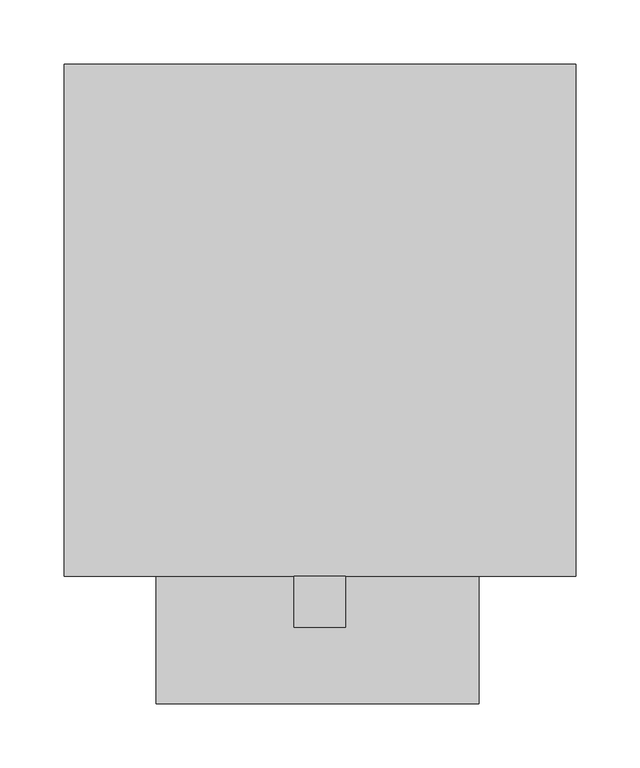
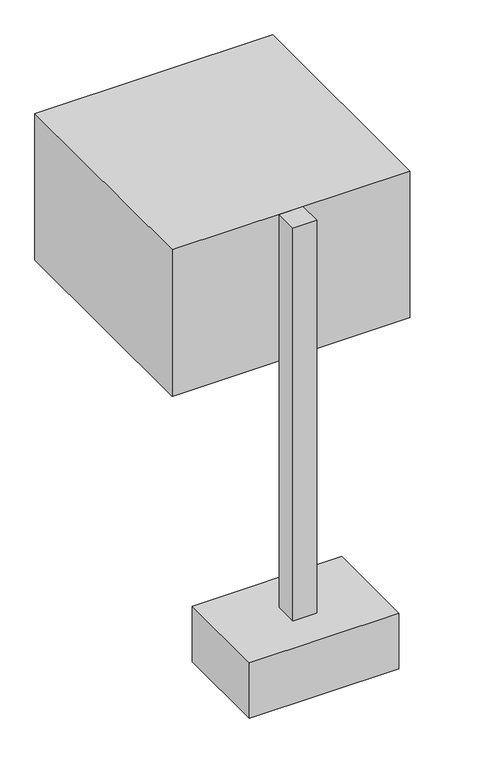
"""IFC4 building model written with IfcOpenShell, lengths in millimetres: furniture geometry, Fixierte Ausstattung Briefkasten : Briefkasten."""

from ifc_helpers import new_model, si_unit, frame, origin, origin_with_axes, place, context, project, spatial, polyline, outline, extrude, source, transform, mapped, element, save


def furniture_fefc07bd(model_context):
    return source(origin(), model_context, "Body", "SweptSolid", [
        extrude(outline(polyline([(124.1357779, -133.6835703), (124.1357779, -299.6691327), (-127.8642221, -299.6691327), (-127.8642221, -133.6835703), (124.1357779, -133.6835703)])), frame((0.0, 0.0, -99.1997962), z_axis=(0.0, 0.0, 1.0), x_axis=(1.0, 0.0, 0.0)), (0.0, 0.0, 1.0), 99.1997962),
        extrude(outline(polyline([(20.0, -240.0), (-20.0, -240.0), (-20.0, -200.0), (20.0, -200.0), (20.0, -240.0)])), origin_with_axes(), (0.0, 0.0, 1.0), 700.0),
        extrude(outline(polyline([(-200.0, -200.0), (-200.0, 200.0), (200.0, 200.0), (200.0, -200.0), (-200.0, -200.0)])), frame((0.0, 0.0, 439.1580133), z_axis=(0.0, 0.0, 1.0), x_axis=(1.0, 0.0, 0.0)), (0.0, 0.0, 1.0), 260.8419867),
    ])


if __name__ == "__main__":
    model = new_model("IFC4")
    model_context = context("Model", 3, world=origin())
    ifc_project = project(units=[si_unit("LENGTHUNIT", "METRE", prefix="MILLI")], contexts=[model_context])
    site = spatial("IfcSite", under=ifc_project)
    building = spatial("IfcBuilding", under=site)
    placement = place(None, origin())
    furniture_shape = furniture_fefc07bd(model_context)
    element("IfcFurniture", 1, ObjectType="Fixierte Ausstattung Briefkasten : Briefkasten", at=placement, inside=building, context=model_context, shape_type="MappedRepresentation", body=[
        mapped(furniture_shape, transform((0.0, 0.0, 0.0), x_axis=(1.0, 0.0, 0.0), y_axis=(0.0, 1.0, 0.0), z_axis=(0.0, 0.0, 1.0))),
    ])
    save(model, "model.ifc")
